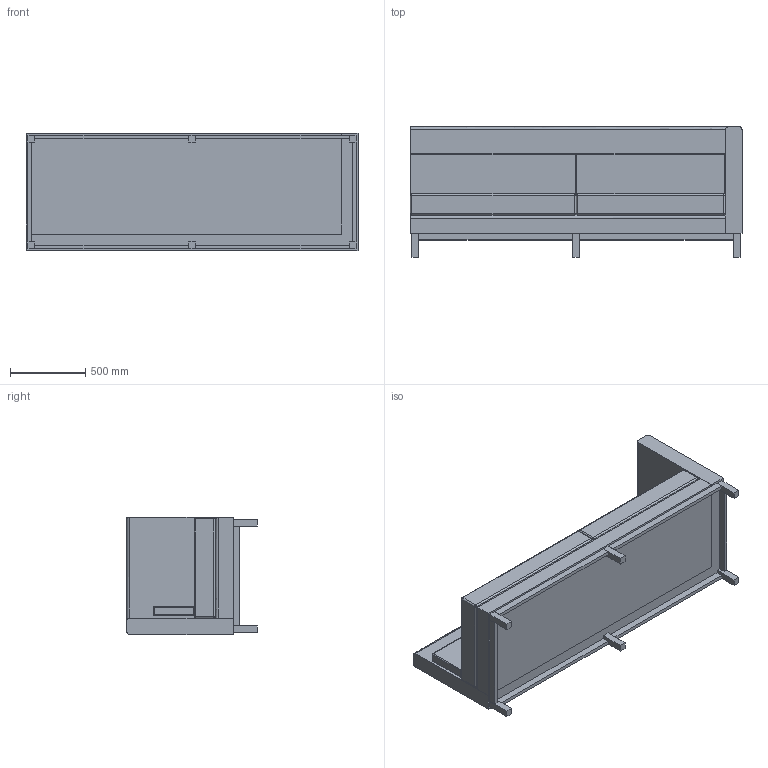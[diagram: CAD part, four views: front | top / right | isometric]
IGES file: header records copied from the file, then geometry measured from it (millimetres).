
Start section: SolidWorks IGES file using analytic representation for surfaces
Global section: file name: P:\3D CAD BLOCKS\ARTHUR CITYSCAPE\LB Plain Large LH\IGS\ART-LB-PLAIN-LARGE-ART-CITY-LH.IGS; native system: SolidWorks 2012; preprocessor: SolidWorks 2012; author: tom; date: 160523.093612; units: millimetre
Bounding box: 2210 x 868 x 780 mm (x, y, z)
Surface area: 14371453.5 mm2 (no closed solid volume)
Topology: 0 solids, 0 shells, 196 faces, 896 edges, 885 vertices
Faces by surface type: bspline 110, revolution 86
